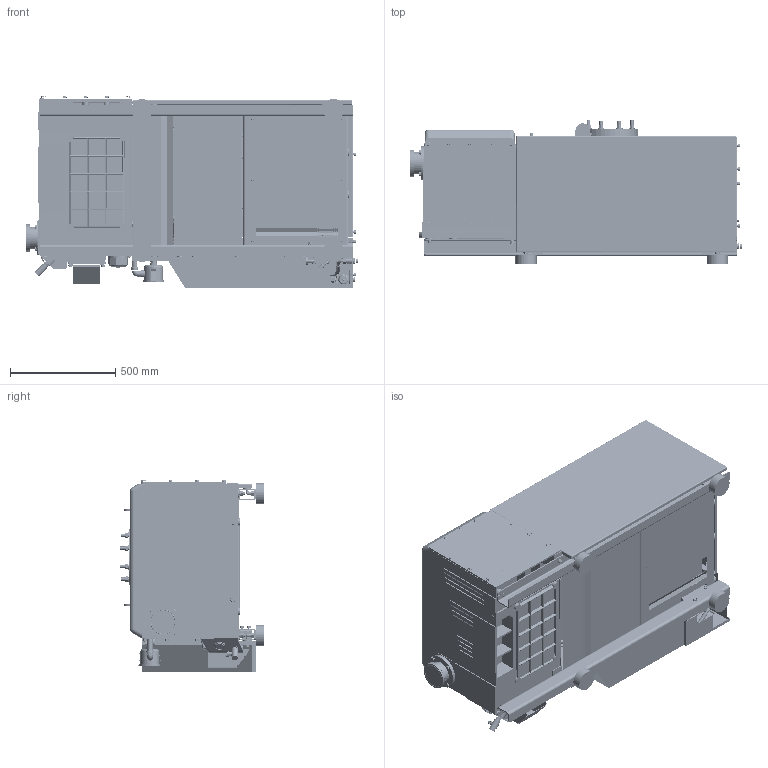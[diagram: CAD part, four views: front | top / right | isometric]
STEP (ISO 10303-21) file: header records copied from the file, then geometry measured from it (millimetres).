
FILE_DESCRIPTION((''),'2;1');
FILE_NAME('960877','2012-05-21T',('LVVCSAVA'),('Copyright by Leybold GmbH'),'PRO/ENGINEER BY PARAMETRIC TECHNOLOGY CORPORATION, 2010430','PRO/ENGINEER BY PARAMETRIC TECHNOLOGY CORPORATION, 2010430','');
FILE_SCHEMA(('AUTOMOTIVE_DESIGN { 1 0 10303 214 1 1 1 1 }'));
Products named in the file (1): 960877
Bounding box: 1578.47 x 685 x 908.5 mm (x, y, z)
Surface area: 14606386.8 mm2 (no closed solid volume)
Topology: 0 solids, 986 shells, 4686 faces, 17353 edges, 13128 vertices
Faces by surface type: plane 2496, cylinder 1208, cone 695, torus 190, bspline 80, sphere 15, extrusion 2
Entity records: 218427 total; most frequent: CARTESIAN_POINT 63681, DIRECTION 27492, ORIENTED_EDGE 24768, EDGE_CURVE 17342, VERTEX_POINT 13128, AXIS2_PLACEMENT_3D 9166, VECTOR 9160, LINE 9158
